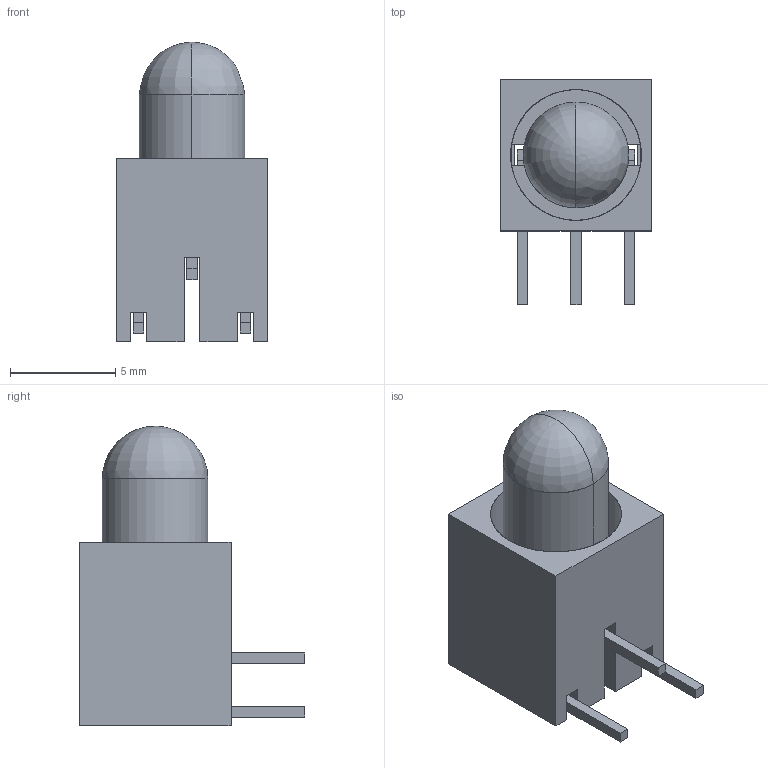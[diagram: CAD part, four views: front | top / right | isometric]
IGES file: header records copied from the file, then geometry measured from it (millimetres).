
Start section: SolidWorks IGES file using analytic representation for surfaces
Global section: file name: G:\Marl\DESIGN\Paul Robson\STEP-IGES FILES\151 Series\151 Series.IGS; native system: SolidWorks 2016; preprocessor: SolidWorks 2016; author: Paulr; date: 160803.082752; units: millimetre
Bounding box: 7.2 x 10.7 x 14.2 mm (x, y, z)
Surface area: 763.5 mm2 (no closed solid volume)
Topology: 0 solids, 0 shells, 67 faces, 464 edges, 463 vertices
Faces by surface type: bspline 61, revolution 6
